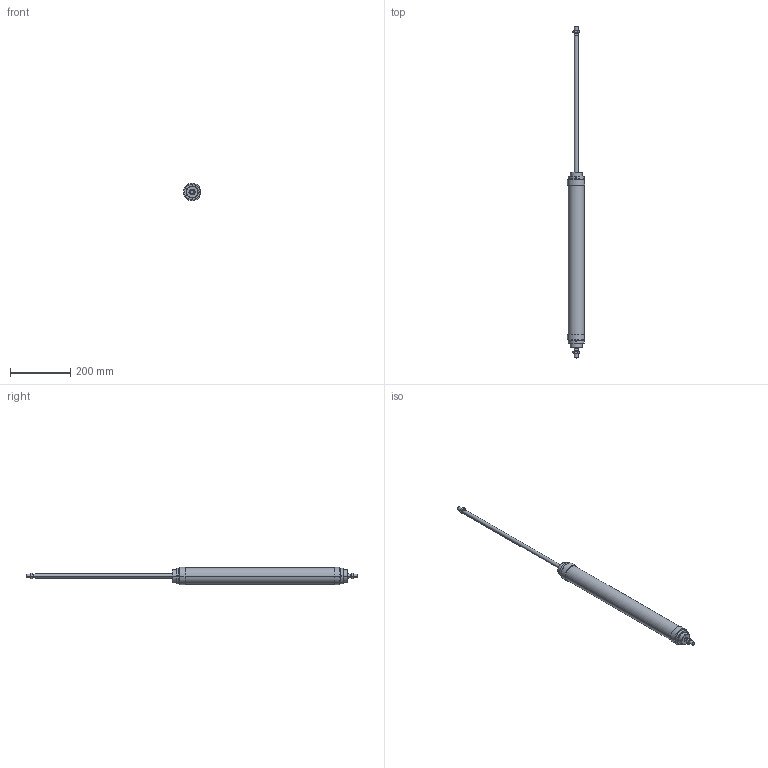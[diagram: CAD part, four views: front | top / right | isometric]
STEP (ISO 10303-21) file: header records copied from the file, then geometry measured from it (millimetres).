
FILE_DESCRIPTION((''),'2;1');
FILE_NAME('I:\DOC-EDP\Lib-3d\1200\CILINDRI\1262\1262_50_0450.stp','2003-04-02T19:17:14',('maffial1'),(''),'Autodesk Inventor (R) 6.0','Autodesk Inventor (R) 6.0','');
FILE_SCHEMA(('AUTOMOTIVE_DESIGN { 1 0 10303 214 1 1 1 1 }'));
Length unit declared in the file: millimetre
Products named in the file (5): 1262_50_0450; S1262_50_450; C1262_50_450; 1200_50_05; 1200_50_06
Assembly tree (6 placements, depth 2):
  1262_50_0450
    S1262_50_450
    C1262_50_450
    1200_50_05  x2
    1200_50_06  x2
Bounding box: 56.6 x 1102 x 57.85 mm (x, y, z)
Volume: 1387492.8 mm3; surface area: 188298.9 mm2
Topology: 6 solids, 6 shells, 182 faces, 424 edges, 264 vertices
Faces by surface type: plane 66, cone 56, cylinder 30, bspline 30
Entity records: 3737 total; most frequent: CARTESIAN_POINT 969, DIRECTION 572, ORIENTED_EDGE 548, EDGE_CURVE 274, AXIS2_PLACEMENT_3D 227, VERTEX_POINT 172, EDGE_LOOP 136, FACE_OUTER_BOUND 120
